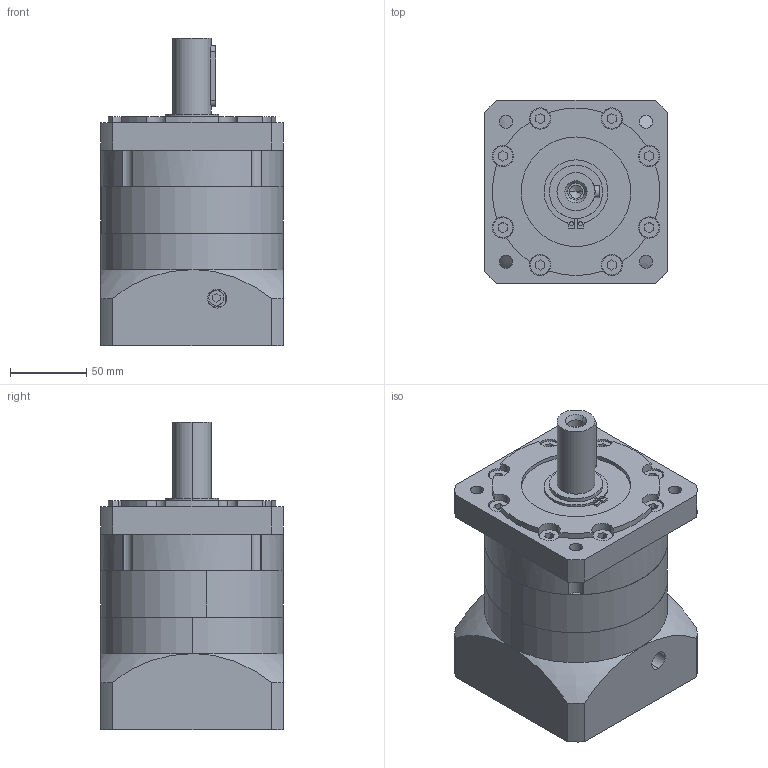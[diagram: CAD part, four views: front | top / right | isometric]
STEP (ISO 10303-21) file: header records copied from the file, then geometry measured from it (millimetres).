
FILE_DESCRIPTION (( 'STEP AP203' ), '1' );
FILE_NAME ('PRF120-L1.STEP', '2021-08-11T08:04:34', ( 'su' ), ( 'Microsoft' ), 'SwSTEP 2.0', 'SolidWorks 2014', '' );
FILE_SCHEMA (( 'CONFIG_CONTROL_DESIGN' ));
Length unit declared in the file: millimetre
Products named in the file (8): 囀鞠褒蹟佪 M6x20; PRF120 蟀諉啣-95-M8-130-LR57; PRF120 κｳﾝﾈｦ-ﾓﾅｻｯ_ﾒｻｼｶﾄﾚｳﾝﾈｦ; PRF120 奻屳唳-25; PRF120 狟屳唳-19; 粣創-6007 40x68x15; 邧埴瑩 8x7x40; PRF120-L1
Assembly tree (7 placements, depth 2):
  PRF120-L1
    囀鞠褒蹟佪 M6x20
    PRF120 蟀諉啣-95-M8-130-LR57
    PRF120 κｳﾝﾈｦ-ﾓﾅｻｯ_ﾒｻｼｶﾄﾚｳﾝﾈｦ
    PRF120 奻屳唳-25
    PRF120 狟屳唳-19
    粣創-6007 40x68x15
    邧埴瑩 8x7x40
Bounding box: 120 x 120 x 202 mm (x, y, z)
Volume: 1683147.4 mm3; surface area: 233808.2 mm2
Topology: 7 solids, 15 shells, 573 faces, 1542 edges, 1011 vertices
Faces by surface type: cylinder 208, plane 203, sphere 96, torus 52, cone 14
Entity records: 22716 total; most frequent: CARTESIAN_POINT 7365, DIRECTION 3082, ORIENTED_EDGE 3064, EDGE_CURVE 1532, AXIS2_PLACEMENT_3D 1298, VERTEX_POINT 1011, CIRCLE 715, EDGE_LOOP 671
